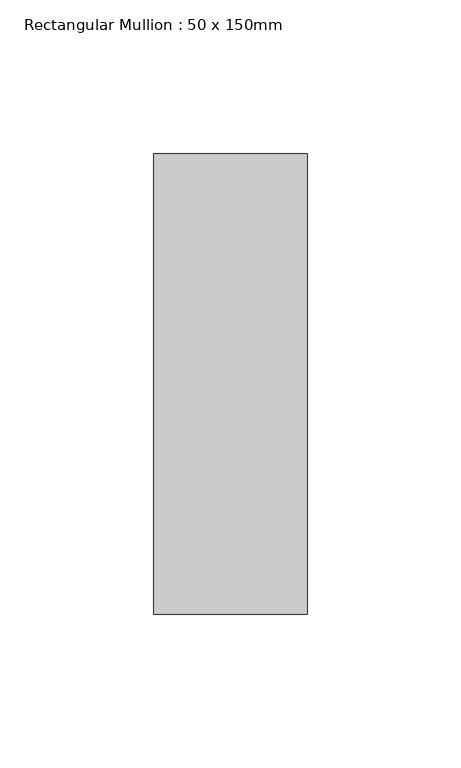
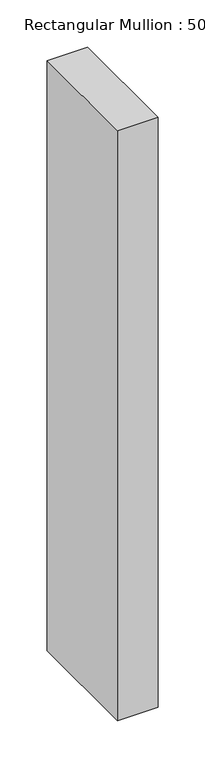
"""IFC4 building model written with IfcOpenShell, lengths in millimetres: member geometry, Rectangular Mullion : 50 x 150mm."""

from ifc_helpers import new_model, si_unit, frame, origin, place, context, project, spatial, polyline, outline, extrude, source, transform, mapped, element, save


def rectangular_mullion_50_x_150mm_e9a6231c(model_context):
    return source(origin(), model_context, "Body", "SweptSolid", [
        extrude(outline(polyline([(25.0, 75.0), (25.0, -75.0), (-25.0, -75.0), (-25.0, 75.0), (25.0, 75.0)])), frame((0.0, 0.0, -765.5128196), z_axis=(0.0, 0.0, 1.0), x_axis=(1.0, 0.0, 0.0)), (0.0, 0.0, 1.0), 765.5128196),
    ])


if __name__ == "__main__":
    model = new_model("IFC4")
    model_context = context("Model", 3, world=origin())
    ifc_project = project(units=[si_unit("LENGTHUNIT", "METRE", prefix="MILLI")], contexts=[model_context])
    site = spatial("IfcSite", under=ifc_project)
    building = spatial("IfcBuilding", under=site)
    placement = place(None, origin())
    rectangular_mullion_50_x_150mm_shape = rectangular_mullion_50_x_150mm_e9a6231c(model_context)
    element("IfcMember", 1, ObjectType="Rectangular Mullion : 50 x 150mm", at=placement, inside=building, context=model_context, shape_type="MappedRepresentation", body=[
        mapped(rectangular_mullion_50_x_150mm_shape, transform((0.0, 0.0, 0.0), x_axis=(1.0, 0.0, 0.0), y_axis=(0.0, 1.0, 0.0), z_axis=(0.0, 0.0, 1.0))),
    ])
    save(model, "model.ifc")
